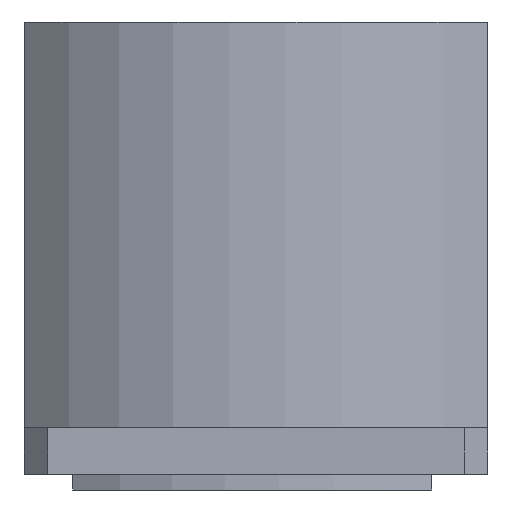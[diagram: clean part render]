
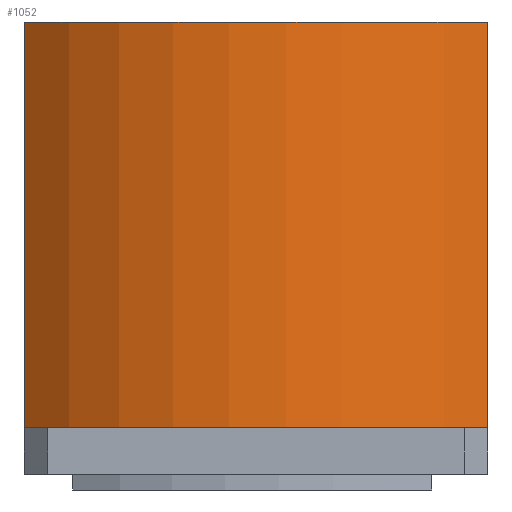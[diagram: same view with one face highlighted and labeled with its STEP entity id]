
A CAD part, left-side view. The second image highlights one B-rep face of the part: STEP entity #1052.
In plain terms, the highlighted cylindrical face has radius 21.5 mm (diameter 43 mm), a partial arc.
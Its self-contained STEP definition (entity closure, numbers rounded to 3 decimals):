
#411=CARTESIAN_POINT('Vertex',(-15.783,14.6,3.)) ;
#414=CARTESIAN_POINT('Line Origine',(-15.783,14.6,16.)) ;
#418=CARTESIAN_POINT('Vertex',(-15.783,14.6,29.)) ;
#789=CARTESIAN_POINT('Axis2P3D Location',(0.,0.,29.)) ;
#793=CARTESIAN_POINT('Vertex',(-15.305,-15.1,29.)) ;
#1029=CARTESIAN_POINT('Axis2P3D Location',(0.,0.,14.5)) ;
#1034=CARTESIAN_POINT('Line Origine',(-15.305,-15.1,14.5)) ;
#1038=CARTESIAN_POINT('Vertex',(-15.305,-15.1,3.)) ;
#1041=CARTESIAN_POINT('Axis2P3D Location',(0.,0.,3.)) ;
#415=DIRECTION('Vector Direction',(0.,0.,1.)) ;
#790=DIRECTION('Axis2P3D Direction',(0.,0.,1.)) ;
#1030=DIRECTION('Axis2P3D Direction',(0.,0.,1.)) ;
#1031=DIRECTION('Axis2P3D XDirection',(-0.734,0.679,0.)) ;
#1035=DIRECTION('Vector Direction',(0.,0.,1.)) ;
#1042=DIRECTION('Axis2P3D Direction',(0.,0.,1.)) ;
#791=AXIS2_PLACEMENT_3D('Circle Axis2P3D',#789,#790,$) ;
#1032=AXIS2_PLACEMENT_3D('Cylinder Axis2P3D',#1029,#1030,#1031) ;
#1043=AXIS2_PLACEMENT_3D('Circle Axis2P3D',#1041,#1042,$) ;
#1047=ORIENTED_EDGE('',*,*,#1040,.T.) ;
#1048=ORIENTED_EDGE('',*,*,#795,.F.) ;
#1049=ORIENTED_EDGE('',*,*,#420,.F.) ;
#1050=ORIENTED_EDGE('',*,*,#1045,.T.) ;
#416=VECTOR('Line Direction',#415,1.) ;
#1036=VECTOR('Line Direction',#1035,1.) ;
#1052=ADVANCED_FACE('\X2\FF8AFF9FFF70FF82\X0\ \X2\FF8EFF9EFF83FF9EFF68FF70\X0\',(#1051),#1033,.T.) ;
#792=CIRCLE('generated circle',#791,21.5) ;
#1044=CIRCLE('generated circle',#1043,21.5) ;
#1033=CYLINDRICAL_SURFACE('generated cylinder',#1032,21.5) ;
#420=EDGE_CURVE('',#412,#419,#417,.T.) ;
#795=EDGE_CURVE('',#419,#794,#792,.T.) ;
#1040=EDGE_CURVE('',#1039,#794,#1037,.T.) ;
#1045=EDGE_CURVE('',#412,#1039,#1044,.T.) ;
#1046=EDGE_LOOP('',(#1047,#1048,#1049,#1050)) ;
#1051=FACE_OUTER_BOUND('',#1046,.T.) ;
#417=LINE('Line',#414,#416) ;
#1037=LINE('Line',#1034,#1036) ;
#412=VERTEX_POINT('',#411) ;
#419=VERTEX_POINT('',#418) ;
#794=VERTEX_POINT('',#793) ;
#1039=VERTEX_POINT('',#1038) ;
